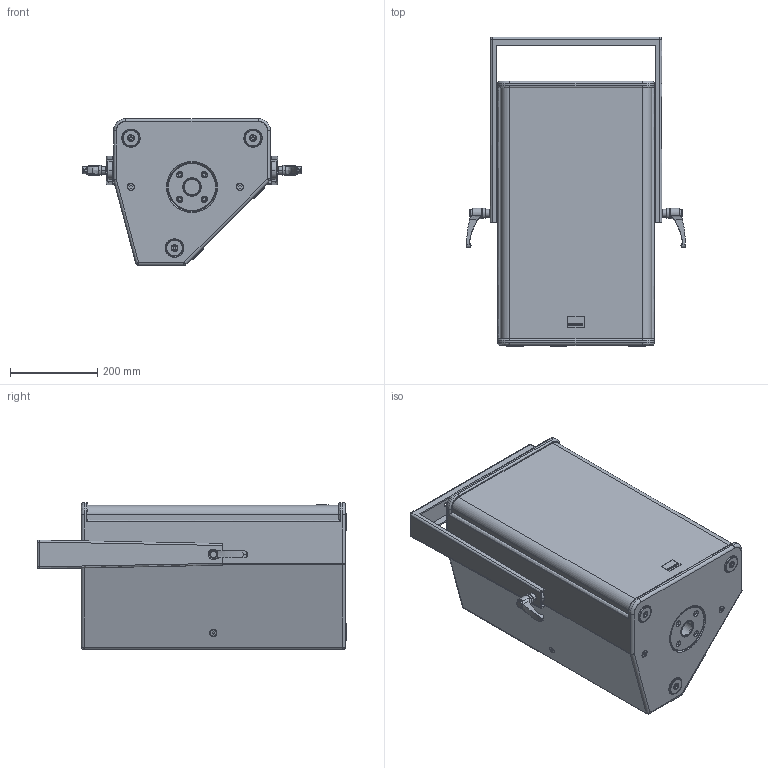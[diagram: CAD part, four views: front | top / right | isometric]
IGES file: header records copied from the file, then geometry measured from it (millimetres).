
Start section: SolidWorks IGES file using analytic representation for surfaces
Global section: file name: C:\Dokumente und Einstellungen\PC_Fabian\Desktop\TS-Serie\Seeburg_TSM12_Bracket_ver.IGS; native system: SolidWorks 2009; preprocessor: SolidWorks 2009; author: PC_Fabian; date: 121017.133855; units: millimetre
Bounding box: 501.25 x 710 x 337 mm (x, y, z)
Surface area: 2111593.9 mm2 (no closed solid volume)
Topology: 0 solids, 0 shells, 821 faces, 11952 edges, 11948 vertices
Faces by surface type: revolution 419, bspline 402
